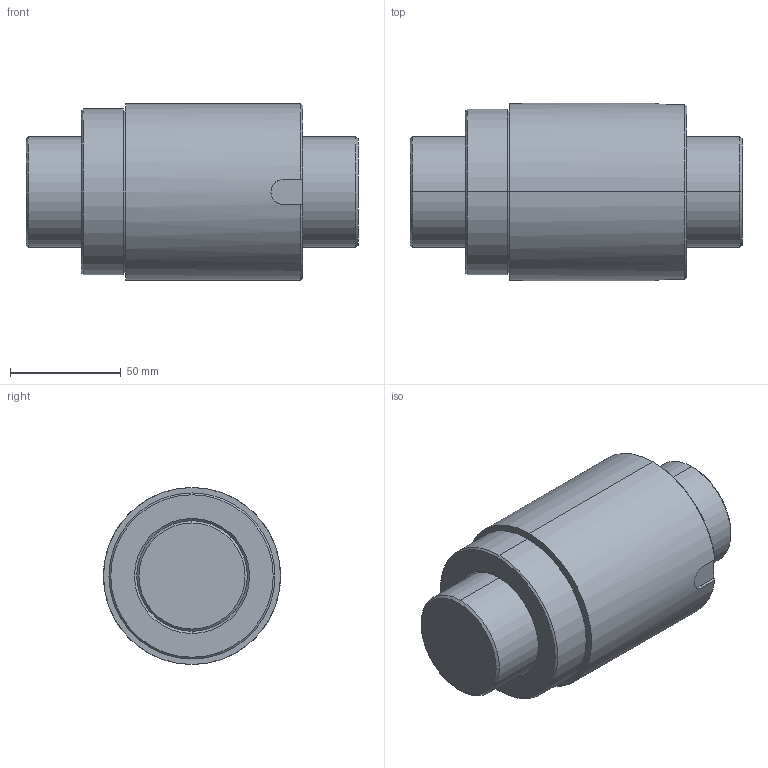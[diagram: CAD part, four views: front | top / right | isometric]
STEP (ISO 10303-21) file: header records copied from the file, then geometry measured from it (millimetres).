
FILE_DESCRIPTION(('no description'),'unknown implementation level');
FILE_NAME('R50_10T4_SE_150_150_0_023_11.stp',' ',('HIWIN GmbH'),('CADClick - KiM GmbH - www.kimweb.de'),'unknown preprocess','ACIS','unknown authorization');
FILE_SCHEMA(('automotive_design'));
Length unit declared in the file: millimetre
Products named in the file (2): R50-10T4-SE 150 150 0.023; R50-10T4-SE 150 150 0.023_1
Bounding box: 150 x 80 x 80 mm (x, y, z)
Volume: 587384.4 mm3; surface area: 74077.8 mm2
Topology: 2 solids, 2 shells, 40 faces, 90 edges, 56 vertices
Faces by surface type: cone 14, cylinder 14, plane 12
Entity records: 2275 total; most frequent: CARTESIAN_POINT 264, DIRECTION 206, STYLED_ITEM 188, PRESENTATION_STYLE_ASSIGNMENT 188, COLOUR_RGB 188, ORIENTED_EDGE 180, EDGE_CURVE 90, CURVE_STYLE 90
